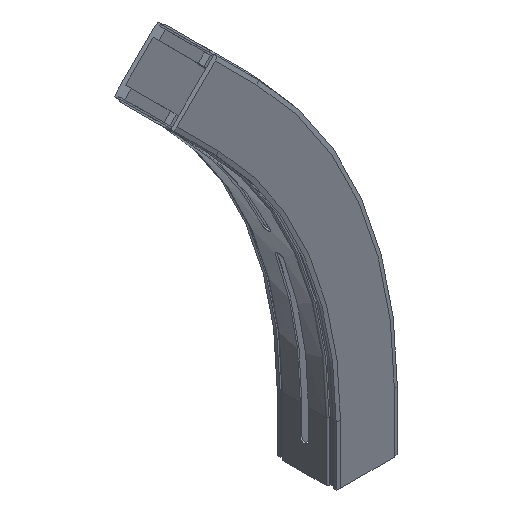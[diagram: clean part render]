
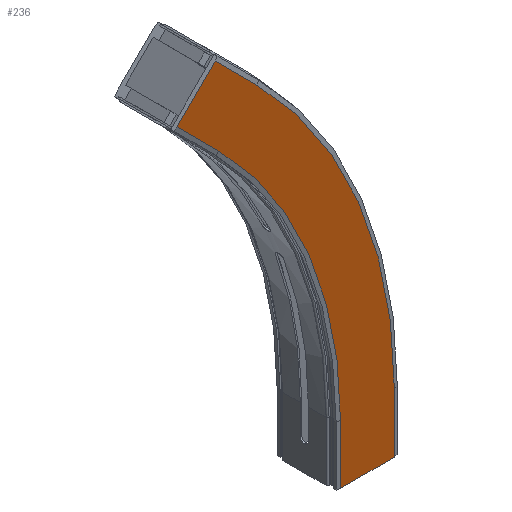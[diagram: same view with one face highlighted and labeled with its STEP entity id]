
A CAD part, isometric view. The second image highlights one B-rep face of the part: STEP entity #236.
In plain terms, the highlighted planar face has unit normal (0, -1, 0).
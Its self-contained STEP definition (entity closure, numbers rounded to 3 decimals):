
#75=CARTESIAN_POINT('',(-206.495,-11.,586.642));
#76=VERTEX_POINT('',#75);
#107=CARTESIAN_POINT('',(-258.114,-11.,535.023));
#108=VERTEX_POINT('',#107);
#115=CARTESIAN_POINT('',(-206.495,-11.,586.642));
#116=DIRECTION('',(-0.707,0.,-0.707));
#117=VECTOR('',#116,73.);
#118=LINE('',#115,#117);
#119=EDGE_CURVE('',#76,#108,#118,.T.);
#161=CARTESIAN_POINT('',(-149.927,-11.,530.073));
#162=VERTEX_POINT('',#161);
#163=CARTESIAN_POINT('',(-149.927,-11.,530.073));
#164=DIRECTION('',(-0.707,0.,0.707));
#165=VECTOR('',#164,80.);
#166=LINE('',#163,#165);
#167=EDGE_CURVE('',#162,#76,#166,.T.);
#179=CARTESIAN_POINT('',(239.858,-11.,140.289));
#180=DIRECTION('',(0.0,-1.0,0.0));
#181=DIRECTION('',(0.707,0.0,-0.707));
#182=AXIS2_PLACEMENT_3D('',#179,#180,#181);
#183=PLANE('',#182);
#184=ORIENTED_EDGE('',*,*,#119,.T.);
#185=CARTESIAN_POINT('',(-201.545,-11.,478.455));
#186=VERTEX_POINT('',#185);
#187=CARTESIAN_POINT('',(-201.545,-11.,478.455));
#188=DIRECTION('',(-0.707,0.,0.707));
#189=VECTOR('',#188,80.);
#190=LINE('',#187,#189);
#191=EDGE_CURVE('',#186,#108,#190,.T.);
#192=ORIENTED_EDGE('',*,*,#191,.F.);
#193=CARTESIAN_POINT('',(-36.5,-11.,80.0));
#194=VERTEX_POINT('',#193);
#195=CARTESIAN_POINT('',(-600.0,-11.,80.0));
#196=DIRECTION('',(0.0,-1.0,0.0));
#197=DIRECTION('',(1.0,0.0,0.0));
#198=AXIS2_PLACEMENT_3D('',#195,#196,#197);
#199=CIRCLE('',#198,563.5);
#200=EDGE_CURVE('',#194,#186,#199,.T.);
#201=ORIENTED_EDGE('',*,*,#200,.F.);
#202=CARTESIAN_POINT('',(-36.5,-11.,0.0));
#203=VERTEX_POINT('',#202);
#204=CARTESIAN_POINT('',(-36.5,-11.,0.0));
#205=DIRECTION('',(0.0,0.0,1.0));
#206=VECTOR('',#205,80.0);
#207=LINE('',#204,#206);
#208=EDGE_CURVE('',#203,#194,#207,.T.);
#209=ORIENTED_EDGE('',*,*,#208,.F.);
#210=CARTESIAN_POINT('',(36.5,-11.,0.0));
#211=VERTEX_POINT('',#210);
#212=CARTESIAN_POINT('',(-36.5,-11.,0.0));
#213=DIRECTION('',(1.0,0.0,0.0));
#214=VECTOR('',#213,73.);
#215=LINE('',#212,#214);
#216=EDGE_CURVE('',#203,#211,#215,.T.);
#217=ORIENTED_EDGE('',*,*,#216,.T.);
#218=CARTESIAN_POINT('',(36.5,-11.,80.0));
#219=VERTEX_POINT('',#218);
#220=CARTESIAN_POINT('',(36.5,-11.,0.0));
#221=DIRECTION('',(0.0,0.0,1.0));
#222=VECTOR('',#221,80.0);
#223=LINE('',#220,#222);
#224=EDGE_CURVE('',#211,#219,#223,.T.);
#225=ORIENTED_EDGE('',*,*,#224,.T.);
#226=CARTESIAN_POINT('',(-600.0,-11.,80.0));
#227=DIRECTION('',(0.0,-1.0,0.0));
#228=DIRECTION('',(1.0,0.0,0.0));
#229=AXIS2_PLACEMENT_3D('',#226,#227,#228);
#230=CIRCLE('',#229,636.5);
#231=EDGE_CURVE('',#219,#162,#230,.T.);
#232=ORIENTED_EDGE('',*,*,#231,.T.);
#233=ORIENTED_EDGE('',*,*,#167,.T.);
#234=EDGE_LOOP('',(#184,#192,#201,#209,#217,#225,#232,#233));
#235=FACE_OUTER_BOUND('',#234,.T.);
#236=ADVANCED_FACE('',(#235),#183,.T.);
